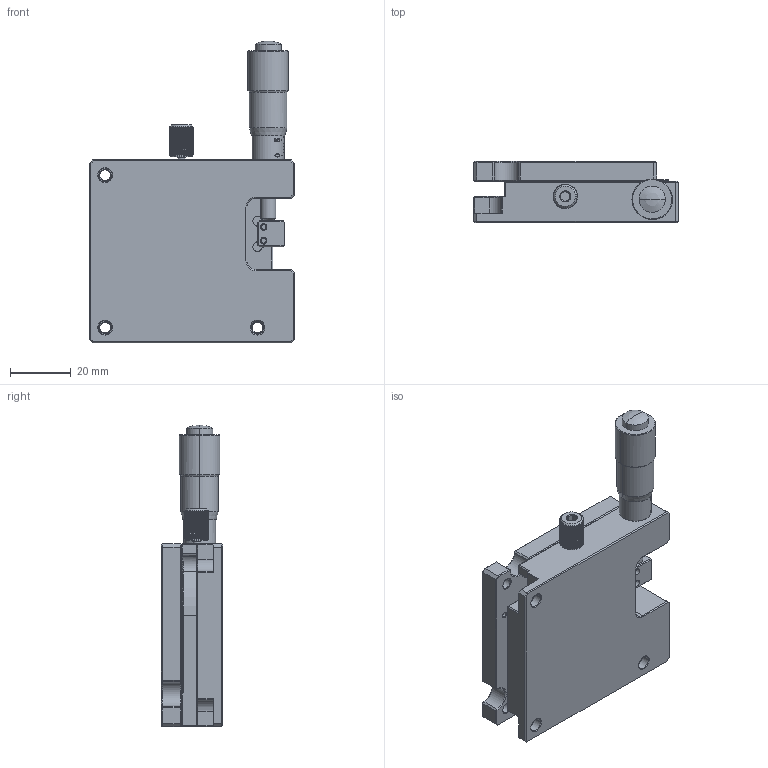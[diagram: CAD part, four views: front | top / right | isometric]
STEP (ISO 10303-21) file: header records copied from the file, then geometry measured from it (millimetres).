
FILE_DESCRIPTION((''),'2;1');
FILE_NAME('ASSY-PST-60_ASM_20_ASM','2021-06-21T19:14:32',('windows10'),(''),'CREO PARAMETRIC BY PTC INC, 2018260','CREO PARAMETRIC BY PTC INC, 2018260','');
FILE_SCHEMA(('CONFIG_CONTROL_DESIGN'));
Length unit declared in the file: millimetre
Products named in the file (8): BOTTOM-60-20_28; TOP-60-20_14; PIN-BLOCK-406080_7; MICRO-HEAD-13NEW-SJP_25_1; MICRO-HEAD-13NEW-SJP_25_2; MICRO-HEAD-13NEW-SJP_25_ASM; STOPPER-8-M3-5_35; ASSY-PST-60_ASM_20_ASM
Assembly tree (7 placements, depth 3):
  ASSY-PST-60_ASM_20_ASM
    BOTTOM-60-20_28
    TOP-60-20_14
    PIN-BLOCK-406080_7
    MICRO-HEAD-13NEW-SJP_25_ASM
      MICRO-HEAD-13NEW-SJP_25_1
      MICRO-HEAD-13NEW-SJP_25_2
    STOPPER-8-M3-5_35
Bounding box: 67 x 20.02 x 99 mm (x, y, z)
Volume: 70583.8 mm3; surface area: 26307.2 mm2
Topology: 6 solids, 7 shells, 780 faces, 2137 edges, 1417 vertices
Faces by surface type: plane 509, cylinder 174, cone 89, torus 4, sphere 4
Entity records: 25633 total; most frequent: CARTESIAN_POINT 5746, ORIENTED_EDGE 4262, DIRECTION 3977, EDGE_CURVE 2133, AXIS2_PLACEMENT_3D 1462, VERTEX_POINT 1417, VECTOR 1053, LINE 1053
